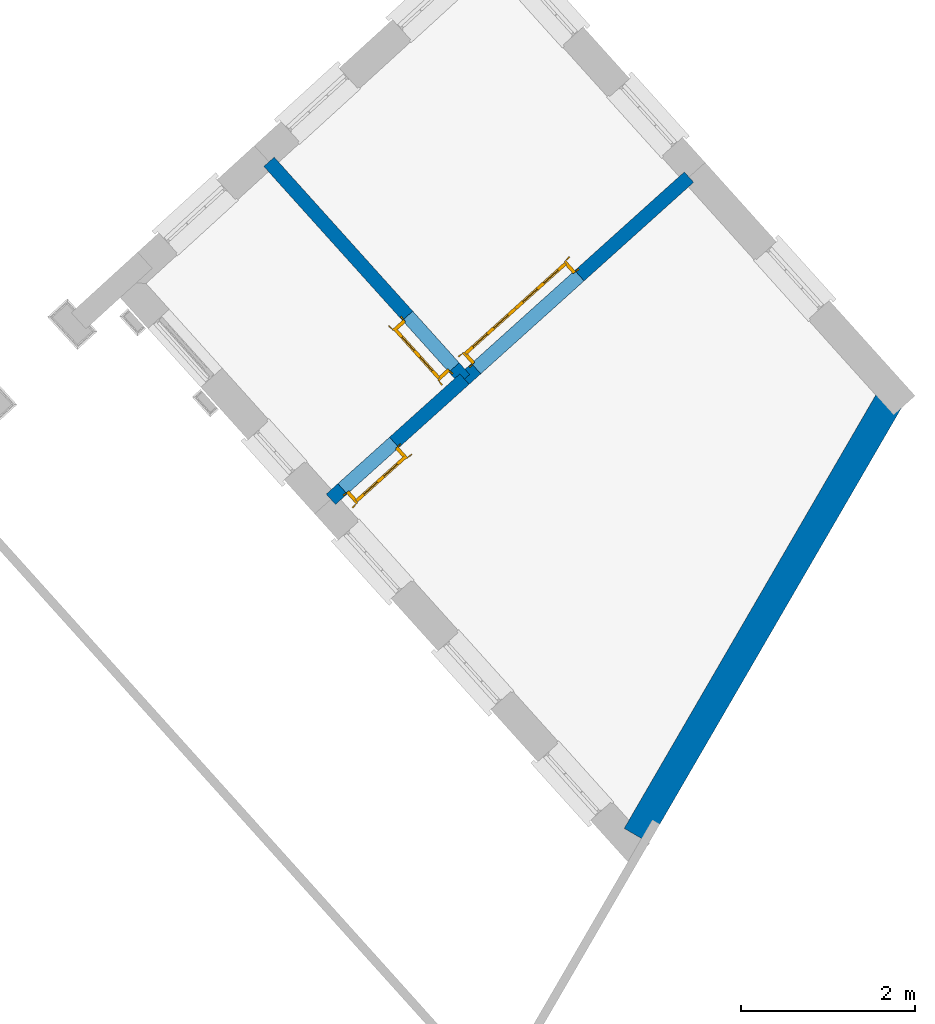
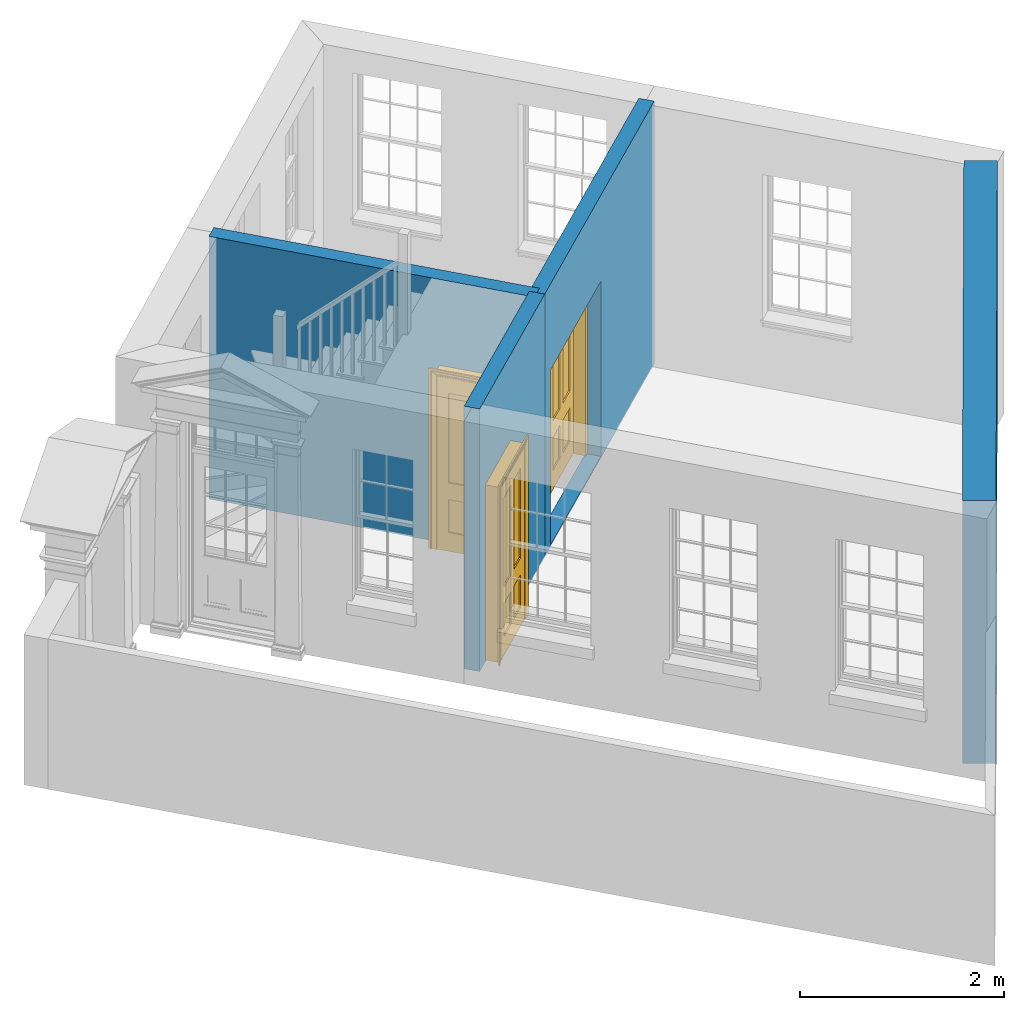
# One storey, part 5 of 7: 4 walls, 3 doors, 3 openings.
"""IFC4 building model written with IfcOpenShell, lengths in metres."""

from ifc_helpers import new_model, si_unit, frame, origin, origin_with_axes, place, context, subcontext, project, spatial, polyline, outline, extrude, faceted_brep, source, transform, mapped, material, layer, layer_set, layer_usage, type_object, type_shapes, element, fill, save


model = new_model("IFC4")

# Units and contexts
model_context = context("Model", 3, world=origin_with_axes())
body_context = subcontext(model_context, "Body", "Model", "MODEL_VIEW")
ifc_project = project(units=[si_unit("PLANEANGLEUNIT", "RADIAN"), si_unit("MASSUNIT", "GRAM", prefix="KILO"), si_unit("FORCEUNIT", "NEWTON", prefix="KILO"), si_unit("LENGTHUNIT", "METRE"), si_unit("AREAUNIT", "SQUARE_METRE"), si_unit("VOLUMEUNIT", "CUBIC_METRE")], contexts=[model_context, model_context])

# Sites, building, storey
site_1_placement = place(None, origin_with_axes())
site_1 = spatial("IfcSite", under=ifc_project, at=site_1_placement, Name="Tamar")
site_2_placement = place(site_1_placement, origin_with_axes())
site_2 = spatial("IfcSite", under=site_1, at=site_2_placement, Name="Site plot-7", CompositionType="ELEMENT")
building_placement = place(None, origin_with_axes())
building = spatial("IfcBuilding", under=site_2, at=building_placement, Name="Building plot-7", CompositionType="ELEMENT")
storey_placement = place(None, frame((0.0, 0.0, 26.0), z_axis=(0.0, 0.0, 1.0), x_axis=(1.0, 0.0, 0.0)))
storey = spatial("IfcBuildingStorey", under=building, at=storey_placement, Name="plot-7 0", CompositionType="ELEMENT", Elevation=26.0)

# Wall
ifc_material_1 = material(Name="Masonry")
ifc_layer_1 = layer(ifc_material_1, 0.33, ventilated=False)
ifc_layer_set_1 = layer_set([ifc_layer_1], Name="party_0.08_0.25")
ifc_layer_usage_1 = layer_usage(ifc_layer_set_1, "AXIS2", "POSITIVE", -0.25)
wall_type_1 = type_object("IfcWallType", Name="party_0.08_0.25", PredefinedType="SOLIDWALL", material=ifc_layer_set_1)
wall_1_placement = place(storey_placement, frame((245.157517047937, 280.815311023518, 0.0), z_axis=(0.0, 0.0, 1.0), x_axis=(0.502058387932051, 0.864833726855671, 0.0)))
element("IfcWall", 1, at=wall_1_placement, inside=storey, type_object=wall_type_1, material=ifc_layer_usage_1, Name="party", context=body_context, shape_type="SweptSolid", body=[
    extrude(outline(polyline([(7.51888801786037e-15, 0.0800000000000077), (-1.65002645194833e-15, -0.249999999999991), (5.82649093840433, -0.24999999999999), (5.82649093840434, 0.0800000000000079), (7.51888801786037e-15, 0.0800000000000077)])), origin_with_axes(), (0.0, 0.0, 1.0), 3.15),
])

# Wall, opening, door
ifc_material_2 = material(Name="Masonry")
ifc_layer_2 = layer(ifc_material_2, 0.16, ventilated=False)
ifc_layer_set_2 = layer_set([ifc_layer_2], Name="interior_0.08_0.08")
ifc_layer_usage_2 = layer_usage(ifc_layer_set_2, "AXIS2", "POSITIVE", -0.08)
wall_type_2 = type_object("IfcWallType", Name="interior_0.08_0.08", PredefinedType="SOLIDWALL", material=ifc_layer_set_2)
wall_2_placement = place(storey_placement, frame((243.250490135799, 286.027875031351, 0.0), z_axis=(0.0, 0.0, 1.0), x_axis=(-0.668853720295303, 0.743394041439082, 0.0)))
wall_2 = element("IfcWall", 2, at=wall_2_placement, inside=storey, type_object=wall_type_2, material=ifc_layer_usage_2, Name="interior", context=body_context, shape_type="SweptSolid", body=[
    extrude(outline(polyline([(-1.04756067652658e-14, 0.080000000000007), (1.0467640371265e-14, -0.080000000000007), (3.36467879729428, -0.0800000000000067), (3.36467879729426, 0.0800000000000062), (-1.04756067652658e-14, 0.080000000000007)])), origin_with_axes(), (0.0, 0.0, 1.0), 3.15),
])
opening_1_placement = place(wall_2_placement, frame((0.179999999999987, 0.0, 0.0199999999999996)))
opening_1 = element("IfcOpeningElement", 3, at=opening_1_placement, cuts=wall_2, Name="My Opening", ObjectType="Opening", context=body_context, shape_type="SweptSolid", body=[
    extrude(outline(polyline([(0.0, -0.0999999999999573), (0.800000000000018, -0.0999999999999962), (0.80000000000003, 1.09999999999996), (1.2267964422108e-14, 1.1), (0.0, -0.0999999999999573)])), origin_with_axes(), (0.0, 0.0, 1.0), 2.1),
])
door_type_1 = type_object("IfcDoorType", Name="door_inside", OperationType="SINGLE_SWING_LEFT", PredefinedType="NOTDEFINED")
shared_shape_1 = source(origin(), body_context, "Body", "Brep", [
    faceted_brep([(0.773, 0.33, 1.895), (0.66, 0.33, 1.895), (0.66, 0.33, 2.073), (0.773, 0.33, 2.073), (0.773, 0.33, 0.82), (0.66, 0.33, 0.82), (0.45, 0.33, 1.895), (0.45, 0.33, 2.073), (0.773, 0.33, 0.62), (0.66, 0.33, 0.62), (0.66, 0.315, 0.82), (0.66, 0.315, 1.895), (0.45, 0.315, 1.895), (0.35, 0.33, 1.895), (0.35, 0.33, 2.073), (0.773, 0.33, 0.225), (0.66, 0.33, 0.225), (0.45, 0.33, 0.62), (0.45, 0.33, 0.82), (0.45, 0.315, 0.82), (0.35, 0.33, 0.82), (0.14, 0.33, 2.073), (0.14, 0.33, 1.895), (0.773, 0.33, 0.0), (0.66, 0.33, 0.0), (0.66, 0.315, 0.225), (0.66, 0.315, 0.62), (0.45, 0.315, 0.62), (0.35, 0.33, 0.62), (0.35, 0.315, 0.82), (0.35, 0.315, 1.895), (0.14, 0.315, 1.895), (0.027, 0.33, 2.073), (0.027, 0.33, 1.895), (0.773, 0.292, 0.0), (0.66, 0.292, 0.0), (0.45, 0.33, 0.0), (0.45, 0.33, 0.225), (0.45, 0.315, 0.225), (0.35, 0.33, 0.225), (0.14, 0.33, 0.82), (0.14, 0.33, 0.62), (0.14, 0.315, 0.82), (0.027, 0.33, 0.82), (0.773, 0.292, 0.225), (0.66, 0.292, 0.225), (0.45, 0.292, 0.0), (0.35, 0.33, 0.0), (0.35, 0.315, 0.225), (0.35, 0.315, 0.62), (0.14, 0.315, 0.62), (0.027, 0.33, 0.62), (0.773, 0.292, 0.62), (0.66, 0.292, 0.62), (0.45, 0.292, 0.225), (0.35, 0.292, 0.0), (0.14, 0.33, 0.225), (0.14, 0.33, 0.0), (0.14, 0.315, 0.225), (0.027, 0.33, 0.225), (0.773, 0.292, 0.82), (0.66, 0.292, 0.82), (0.66, 0.307, 0.62), (0.66, 0.307, 0.225), (0.45, 0.307, 0.225), (0.35, 0.292, 0.225), (0.14, 0.292, 0.0), (0.027, 0.33, 0.0), (0.773, 0.292, 1.895), (0.66, 0.292, 1.895), (0.45, 0.292, 0.62), (0.45, 0.292, 0.82), (0.45, 0.307, 0.62), (0.35, 0.292, 0.62), (0.14, 0.292, 0.225), (0.027, 0.292, 0.0), (0.773, 0.292, 2.073), (0.66, 0.292, 2.073), (0.66, 0.307, 1.895), (0.66, 0.307, 0.82), (0.45, 0.307, 0.82), (0.35, 0.292, 0.82), (0.35, 0.307, 0.62), (0.35, 0.307, 0.225), (0.14, 0.307, 0.225), (0.027, 0.292, 0.225), (0.45, 0.292, 1.895), (0.45, 0.292, 2.073), (0.45, 0.307, 1.895), (0.35, 0.292, 1.895), (0.14, 0.292, 0.82), (0.14, 0.292, 0.62), (0.14, 0.307, 0.62), (0.027, 0.292, 0.62), (0.35, 0.292, 2.073), (0.35, 0.307, 1.895), (0.35, 0.307, 0.82), (0.14, 0.307, 0.82), (0.027, 0.292, 0.82), (0.14, 0.292, 2.073), (0.14, 0.292, 1.895), (0.14, 0.307, 1.895), (0.027, 0.292, 1.895), (0.027, 0.292, 2.073), (0.02, 0.335, 0.0), (0.005, 0.34, 0.0), (0.005, 0.34, 2.095), (0.02, 0.335, 2.08), (0.02, 0.33, 0.0), (0.0, 0.335, 0.0), (0.0, 0.335, 2.1), (0.795, 0.34, 2.095), (0.78, 0.335, 2.08), (0.02, 0.33, 2.08), (0.0, 0.33, 0.0), (-0.032, 0.345, 0.0), (-0.032, 0.345, 2.132), (0.8, 0.335, 2.1), (0.795, 0.34, 0.0), (0.78, 0.335, 0.0), (0.78, 0.33, 2.08), (0.04, 0.29, 0.0), (0.025, 0.29, 0.0), (0.025, 0.29, 2.075), (0.04, 0.29, 2.06), (-0.04, 0.34, 0.0), (-0.04, 0.34, 2.14), (0.832, 0.345, 2.132), (0.8, 0.335, 0.0), (0.78, 0.33, 0.0), (0.8, 0.33, 0.0), (0.86, 0.33, 0.0), (0.86, 0.33, 2.16), (0.8, 0.33, 2.1), (-0.06, 0.33, 2.16), (0.0, 0.33, 2.1), (-0.06, 0.33, 0.0), (-0.04, 0.345, 0.0), (-0.04, 0.345, 2.14), (0.84, 0.34, 2.14), (0.832, 0.345, 0.0), (0.84, 0.34, 0.0), (0.86, 0.345, 0.0), (0.86, 0.345, 2.16), (-0.06, 0.345, 2.16), (-0.06, 0.345, 0.0), (0.84, 0.345, 0.0), (0.84, 0.345, 2.14), (-0.025, 0.155, 0.0), (-0.025, 0.16, 0.0), (-0.025, 0.16, 2.125), (-0.025, 0.155, 2.125), (-0.017, 0.155, 0.0), (-0.017, 0.155, 2.117), (0.825, 0.16, 2.125), (0.825, 0.155, 2.125), (0.825, 0.155, 0.0), (0.845, 0.155, 0.0), (-0.045, 0.155, 2.145), (-0.045, 0.155, 0.0), (0.845, 0.155, 2.145), (0.015, 0.165, 0.0), (0.015, 0.165, 2.085), (0.817, 0.155, 2.117), (0.825, 0.16, 0.0), (0.845, 0.17, 0.0), (0.845, 0.17, 2.145), (-0.045, 0.17, 2.145), (-0.045, 0.17, 0.0), (0.02, 0.16, 0.0), (0.02, 0.16, 2.08), (0.785, 0.165, 2.085), (0.817, 0.155, 0.0), (0.8, 0.17, 0.0), (0.8, 0.17, 2.1), (0.0, 0.17, 2.1), (0.0, 0.17, 0.0), (0.035, 0.165, 0.0), (0.035, 0.165, 2.065), (0.78, 0.16, 2.08), (0.785, 0.165, 0.0), (0.775, 0.29, 2.075), (0.76, 0.29, 2.06), (0.035, 0.17, 2.065), (0.035, 0.17, 0.0), (0.765, 0.165, 2.065), (0.78, 0.16, 0.0), (0.765, 0.17, 0.0), (0.765, 0.17, 2.065), (0.765, 0.165, 0.0), (0.04, 0.17, 2.06), (0.04, 0.17, 0.0), (0.76, 0.17, 2.06), (0.76, 0.17, 0.0), (0.76, 0.29, 0.0), (0.775, 0.29, 0.0), (0.025, 0.33, 0.0), (0.025, 0.33, 2.075), (0.775, 0.33, 0.0), (0.775, 0.33, 2.075)], [[[0, 1, 2, 3]], [[1, 0, 4, 5]], [[1, 6, 7, 2]], [[8, 9, 5, 4]], [[1, 5, 10, 11]], [[6, 1, 11, 12]], [[6, 13, 14, 7]], [[15, 16, 9, 8]], [[9, 17, 18, 5]], [[5, 18, 19, 10]], [[10, 19, 12, 11]], [[18, 6, 12, 19]], [[18, 20, 13, 6]], [[21, 14, 13, 22]], [[23, 24, 16, 15]], [[9, 16, 25, 26]], [[17, 9, 26, 27]], [[17, 28, 20, 18]], [[13, 20, 29, 30]], [[22, 13, 30, 31]], [[32, 21, 22, 33]], [[34, 35, 24, 23]], [[24, 36, 37, 16]], [[16, 37, 38, 25]], [[25, 38, 27, 26]], [[37, 17, 27, 38]], [[37, 39, 28, 17]], [[40, 20, 28, 41]], [[20, 40, 42, 29]], [[31, 30, 29, 42]], [[40, 22, 31, 42]], [[33, 22, 40, 43]], [[35, 34, 44, 45]], [[35, 46, 36, 24]], [[36, 47, 39, 37]], [[28, 39, 48, 49]], [[41, 28, 49, 50]], [[43, 40, 41, 51]], [[45, 44, 52, 53]], [[46, 35, 45, 54]], [[46, 55, 47, 36]], [[56, 39, 47, 57]], [[39, 56, 58, 48]], [[50, 49, 48, 58]], [[56, 41, 50, 58]], [[51, 41, 56, 59]], [[53, 52, 60, 61]], [[45, 53, 62, 63]], [[54, 45, 63, 64]], [[55, 46, 54, 65]], [[55, 66, 57, 47]], [[59, 56, 57, 67]], [[61, 60, 68, 69]], [[70, 53, 61, 71]], [[53, 70, 72, 62]], [[72, 64, 63, 62]], [[70, 54, 64, 72]], [[65, 54, 70, 73]], [[65, 74, 66, 55]], [[67, 57, 66, 75]], [[69, 68, 76, 77]], [[61, 69, 78, 79]], [[71, 61, 79, 80]], [[73, 70, 71, 81]], [[65, 73, 82, 83]], [[74, 65, 83, 84]], [[74, 85, 75, 66]], [[86, 69, 77, 87]], [[69, 86, 88, 78]], [[88, 80, 79, 78]], [[86, 71, 80, 88]], [[81, 71, 86, 89]], [[73, 81, 90, 91]], [[73, 91, 92, 82]], [[83, 82, 92, 84]], [[91, 74, 84, 92]], [[91, 93, 85, 74]], [[89, 86, 87, 94]], [[81, 89, 95, 96]], [[90, 81, 96, 97]], [[90, 98, 93, 91]], [[94, 99, 100, 89]], [[89, 100, 101, 95]], [[101, 97, 96, 95]], [[100, 90, 97, 101]], [[100, 102, 98, 90]], [[99, 103, 102, 100]], [[32, 103, 99, 21]], [[102, 103, 32, 33]], [[98, 102, 33, 43]], [[21, 99, 94, 14]], [[94, 87, 7, 14]], [[7, 87, 77, 2]], [[76, 3, 2, 77]], [[43, 51, 93, 98]], [[51, 59, 85, 93]], [[67, 75, 85, 59]], [[34, 23, 15, 44]], [[44, 15, 8, 52]], [[52, 8, 4, 60]], [[0, 68, 60, 4]], [[0, 3, 76, 68]], [[104, 105, 106, 107]], [[104, 108, 109, 105]], [[105, 109, 110, 106]], [[107, 106, 111, 112]], [[107, 113, 108, 104]], [[114, 109, 108]], [[109, 115, 116, 110]], [[106, 110, 117, 111]], [[112, 111, 118, 119]], [[113, 107, 112, 120]], [[121, 122, 123, 124]], [[115, 109, 114, 125]], [[115, 125, 126, 116]], [[110, 116, 127, 117]], [[111, 117, 128, 118]], [[118, 128, 129, 119]], [[120, 112, 119, 129]], [[130, 129, 128]], [[130, 131, 132, 133]], [[133, 132, 134, 135]], [[135, 134, 136, 114]], [[136, 125, 114]], [[125, 137, 138, 126]], [[116, 126, 139, 127]], [[117, 127, 140, 128]], [[141, 130, 128, 140]], [[131, 130, 141]], [[131, 142, 143, 132]], [[132, 143, 144, 134]], [[134, 144, 145, 136]], [[137, 125, 136, 145]], [[143, 142, 146]], [[143, 146, 147]], [[137, 145, 144]], [[143, 147, 138]], [[138, 137, 144]], [[143, 138, 144]], [[126, 138, 147, 139]], [[127, 139, 141, 140]], [[142, 131, 141, 146]], [[139, 147, 146, 141]], [[148, 149, 150, 151]], [[149, 152, 153, 150]], [[151, 150, 154, 155]], [[155, 156, 157]], [[158, 159, 148]], [[158, 148, 151]], [[155, 157, 160]], [[158, 151, 155]], [[155, 160, 158]], [[152, 161, 162, 153]], [[150, 153, 163, 154]], [[155, 154, 164, 156]], [[156, 164, 165, 157]], [[157, 165, 166, 160]], [[160, 166, 167, 158]], [[158, 167, 168, 159]], [[161, 169, 170, 162]], [[153, 162, 171, 163]], [[154, 163, 172, 164]], [[165, 164, 173]], [[165, 173, 174, 166]], [[166, 174, 175, 167]], [[167, 175, 176, 168]], [[169, 177, 178, 170]], [[162, 170, 179, 171]], [[163, 171, 180, 172]], [[172, 180, 173, 164]], [[124, 123, 181, 182]], [[183, 178, 177, 184]], [[170, 178, 185, 179]], [[171, 179, 186, 180]], [[187, 173, 180]], [[185, 188, 187, 189]], [[188, 185, 178, 183]], [[179, 185, 189, 186]], [[189, 187, 180, 186]], [[190, 183, 184, 191]], [[192, 188, 183, 190]], [[191, 184, 122, 121]], [[124, 190, 191, 121]], [[193, 187, 188, 192]], [[182, 192, 190, 124]], [[184, 176, 122]], [[194, 195, 187, 193]], [[192, 182, 194, 193]], [[161, 176, 184]], [[114, 108, 122, 176]], [[173, 187, 195]], [[152, 149, 176, 161]], [[169, 161, 184, 177]], [[196, 122, 108]], [[176, 175, 135, 114]], [[173, 195, 129, 130]], [[176, 149, 168]], [[123, 122, 196, 197]], [[196, 108, 113, 197]], [[175, 174, 133, 135]], [[198, 129, 195]], [[133, 174, 173, 130]], [[159, 168, 149, 148]], [[181, 123, 197, 199]], [[197, 113, 120, 199]], [[199, 120, 129, 198]], [[195, 181, 199, 198]], [[195, 194, 182, 181]]]),
])
type_shapes(door_type_1, [shared_shape_1])
door_1_placement = place(storey_placement, frame((243.20443587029, 286.22857133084, 0.0199999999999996), z_axis=(0.0, 0.0, 1.0), x_axis=(-0.535082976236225, 0.594715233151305, 0.0)))
door_1 = element("IfcDoor", 4, at=door_1_placement, inside=storey, type_object=door_type_1, Name="kitchen inside door", OverallHeight=2.1, OverallWidth=0.8, context=body_context, shape_type="MappedRepresentation", body=[
    mapped(shared_shape_1, transform((0.0, 0.0, 0.0), scale=1.0)),
])
fill(opening_1, door_1)

wall_3_placement = place(storey_placement, frame((243.250490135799, 286.027875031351, 0.0), z_axis=(0.0, 0.0, 1.0), x_axis=(-0.743394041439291, -0.668853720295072, 0.0)))
wall_3 = element("IfcWall", 5, at=wall_3_placement, inside=storey, type_object=wall_type_2, material=ifc_layer_usage_2, Name="interior", context=body_context, shape_type="SweptSolid", body=[
    extrude(outline(polyline([(4.81699484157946e-15, 0.0800000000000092), (-4.79126487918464e-15, -0.0800000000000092), (2.0687703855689, -0.0800000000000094), (2.06877038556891, 0.0800000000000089), (4.81699484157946e-15, 0.0800000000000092)])), origin_with_axes(), (0.0, 0.0, 1.0), 3.15),
])
opening_2_placement = place(wall_3_placement, frame((1.08877038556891, 0.0, 0.0199999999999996)))
opening_2 = element("IfcOpeningElement", 6, at=opening_2_placement, cuts=wall_3, Name="My Opening", ObjectType="Opening", context=body_context, shape_type="SweptSolid", body=[
    extrude(outline(polyline([(0.0, -0.0999999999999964), (0.799999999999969, -0.10000000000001), (0.799999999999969, 1.09999999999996), (8.88178419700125e-16, 1.09999999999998), (0.0, -0.0999999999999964)])), origin_with_axes(), (0.0, 0.0, 1.0), 2.1),
])
door_2_placement = place(storey_placement, frame((242.374219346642, 285.37398631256, 0.0199999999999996), z_axis=(0.0, 0.0, 1.0), x_axis=(-0.594715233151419, -0.535082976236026, 0.0)))
door_2 = element("IfcDoor", 7, at=door_2_placement, inside=storey, type_object=door_type_1, Name="living inside door", OverallHeight=2.1, OverallWidth=0.8, context=body_context, shape_type="MappedRepresentation", body=[
    mapped(shared_shape_1, transform((0.0, 0.0, 0.0), scale=1.0)),
])
fill(opening_2, door_2)

wall_4_placement = place(storey_placement, frame((243.250490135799, 286.027875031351, 0.0), z_axis=(0.0, 0.0, 1.0), x_axis=(0.743394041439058, 0.66885372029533, 0.0)))
wall_4 = element("IfcWall", 8, at=wall_4_placement, inside=storey, type_object=wall_type_2, material=ifc_layer_usage_2, Name="interior", context=body_context, shape_type="SweptSolid", body=[
    extrude(outline(polyline([(-2.65338725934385e-14, 0.0799999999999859), (2.65791969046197e-14, -0.0799999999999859), (3.4761522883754, -0.079999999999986), (3.47615228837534, 0.0799999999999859), (-2.65338725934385e-14, 0.0799999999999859)])), origin_with_axes(), (0.0, 0.0, 1.0), 3.15),
])
opening_3_placement = place(wall_4_placement, frame((0.179999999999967, 0.0, 0.0199999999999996)))
opening_3 = element("IfcOpeningElement", 9, at=opening_3_placement, cuts=wall_4, Name="My Opening", ObjectType="Opening", context=body_context, shape_type="SweptSolid", body=[
    extrude(outline(polyline([(0.0, -0.100000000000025), (1.60000000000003, -0.100000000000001), (1.60000000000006, 1.10000000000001), (3.23630011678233e-14, 1.09999999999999), (0.0, -0.100000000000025)])), origin_with_axes(), (0.0, 0.0, 1.0), 2.1),
])
door_type_2 = type_object("IfcDoorType", Name="door_inside_double", OperationType="SINGLE_SWING_LEFT", PredefinedType="NOTDEFINED")
shared_shape_2 = source(origin(), body_context, "Body", "Brep", [
    faceted_brep([(0.14, 0.307, 1.895), (0.14, 0.307, 0.82), (0.363, 0.307, 0.82), (0.363, 0.307, 1.895), (0.14, 0.292, 1.895), (0.14, 0.292, 0.82), (0.363, 0.292, 0.82), (0.363, 0.292, 1.895), (0.027, 0.292, 1.895), (0.027, 0.292, 0.82), (0.363, 0.292, 0.62), (0.14, 0.292, 0.62), (0.463, 0.292, 0.82), (0.463, 0.292, 1.895), (0.363, 0.292, 2.073), (0.14, 0.292, 2.073), (0.027, 0.292, 2.073), (0.027, 0.33, 1.895), (0.027, 0.33, 0.82), (0.027, 0.292, 0.62), (0.463, 0.292, 0.62), (0.14, 0.307, 0.62), (0.363, 0.307, 0.62), (0.463, 0.307, 0.82), (0.463, 0.307, 1.895), (0.463, 0.292, 2.073), (0.14, 0.33, 2.073), (0.363, 0.33, 2.073), (0.027, 0.33, 2.073), (0.14, 0.33, 1.895), (0.14, 0.33, 0.82), (0.027, 0.33, 0.62), (0.027, 0.292, 0.225), (0.14, 0.292, 0.225), (0.363, 0.292, 0.225), (0.463, 0.292, 0.225), (0.686, 0.292, 0.62), (0.686, 0.292, 0.82), (0.14, 0.307, 0.225), (0.363, 0.307, 0.225), (0.686, 0.307, 0.82), (0.686, 0.307, 1.895), (0.686, 0.292, 1.895), (0.686, 0.292, 2.073), (0.463, 0.33, 2.073), (0.363, 0.33, 1.895), (0.14, 0.315, 1.895), (0.14, 0.315, 0.82), (0.14, 0.33, 0.62), (0.027, 0.33, 0.225), (0.027, 0.292, 0.0), (0.14, 0.292, 0.0), (0.363, 0.292, 0.0), (0.463, 0.292, 0.0), (0.463, 0.307, 0.225), (0.463, 0.307, 0.62), (0.686, 0.307, 0.62), (0.799, 0.292, 0.62), (0.799, 0.292, 0.82), (0.799, 0.292, 1.895), (0.799, 0.292, 2.073), (0.686, 0.33, 2.073), (0.463, 0.33, 1.895), (0.363, 0.315, 1.895), (0.363, 0.315, 0.82), (0.363, 0.33, 0.82), (0.363, 0.33, 0.62), (0.14, 0.33, 0.225), (0.027, 0.33, 0.0), (0.14, 0.33, 0.0), (0.363, 0.33, 0.0), (0.463, 0.33, 0.0), (0.686, 0.292, 0.0), (0.686, 0.292, 0.225), (0.686, 0.307, 0.225), (0.799, 0.292, 0.225), (0.799, 0.33, 0.62), (0.799, 0.33, 0.82), (0.799, 0.33, 1.895), (0.799, 0.33, 2.073), (0.686, 0.33, 1.895), (0.463, 0.33, 0.82), (0.463, 0.33, 0.62), (0.363, 0.315, 0.62), (0.14, 0.315, 0.62), (0.14, 0.315, 0.225), (0.363, 0.33, 0.225), (0.463, 0.33, 0.225), (0.686, 0.33, 0.0), (0.799, 0.292, 0.0), (0.799, 0.33, 0.225), (0.686, 0.33, 0.62), (0.686, 0.33, 0.82), (0.686, 0.315, 1.895), (0.463, 0.315, 1.895), (0.463, 0.315, 0.82), (0.363, 0.315, 0.225), (0.686, 0.33, 0.225), (0.799, 0.33, 0.0), (0.686, 0.315, 0.82), (0.463, 0.315, 0.62), (0.463, 0.315, 0.225), (0.686, 0.315, 0.62), (0.686, 0.315, 0.225), (1.46, 0.33, 1.895), (1.237, 0.33, 1.895), (1.237, 0.33, 2.073), (1.46, 0.33, 2.073), (1.46, 0.315, 1.895), (1.237, 0.315, 1.895), (1.137, 0.33, 1.895), (1.137, 0.33, 2.073), (1.237, 0.292, 2.073), (1.46, 0.292, 2.073), (1.573, 0.33, 1.895), (1.573, 0.33, 2.073), (1.46, 0.33, 0.82), (1.46, 0.315, 0.82), (1.237, 0.315, 0.82), (1.237, 0.33, 0.82), (1.137, 0.33, 0.82), (0.914, 0.33, 2.073), (0.914, 0.33, 1.895), (1.137, 0.292, 2.073), (1.237, 0.292, 1.895), (1.46, 0.292, 1.895), (1.573, 0.292, 2.073), (1.573, 0.33, 0.82), (1.573, 0.292, 1.895), (1.237, 0.33, 0.62), (1.137, 0.33, 0.62), (1.137, 0.315, 0.82), (1.137, 0.315, 1.895), (0.914, 0.292, 2.073), (0.914, 0.315, 1.895), (0.801, 0.33, 2.073), (0.801, 0.33, 1.895), (1.137, 0.292, 1.895), (1.237, 0.307, 1.895), (1.46, 0.307, 1.895), (1.573, 0.292, 0.82), (1.573, 0.33, 0.62), (1.46, 0.33, 0.62), (1.237, 0.33, 0.225), (1.137, 0.33, 0.225), (0.914, 0.33, 0.82), (0.914, 0.33, 0.62), (0.914, 0.315, 0.82), (0.801, 0.292, 2.073), (0.914, 0.292, 1.895), (0.801, 0.33, 0.82), (0.801, 0.292, 1.895), (1.137, 0.292, 0.82), (1.237, 0.292, 0.82), (1.237, 0.307, 0.82), (1.46, 0.307, 0.82), (1.46, 0.292, 0.82), (1.573, 0.292, 0.62), (1.573, 0.33, 0.225), (1.46, 0.33, 0.225), (1.46, 0.315, 0.62), (1.237, 0.315, 0.62), (1.237, 0.33, 0.0), (1.137, 0.33, 0.0), (1.137, 0.315, 0.225), (1.137, 0.315, 0.62), (1.237, 0.315, 0.225), (0.914, 0.315, 0.62), (0.801, 0.33, 0.62), (0.914, 0.307, 1.895), (1.137, 0.307, 1.895), (0.801, 0.292, 0.82), (1.137, 0.292, 0.62), (1.237, 0.292, 0.62), (1.137, 0.307, 0.82), (1.46, 0.292, 0.62), (1.573, 0.292, 0.225), (1.573, 0.33, 0.0), (1.46, 0.33, 0.0), (1.46, 0.315, 0.225), (1.237, 0.292, 0.0), (1.137, 0.292, 0.0), (0.914, 0.33, 0.225), (0.914, 0.33, 0.0), (0.914, 0.315, 0.225), (0.801, 0.33, 0.225), (0.801, 0.292, 0.62), (0.914, 0.292, 0.82), (0.914, 0.307, 0.82), (1.137, 0.292, 0.225), (1.237, 0.292, 0.225), (0.914, 0.292, 0.62), (1.46, 0.292, 0.225), (1.573, 0.292, 0.0), (1.46, 0.292, 0.0), (0.914, 0.292, 0.0), (0.801, 0.33, 0.0), (0.801, 0.292, 0.225), (1.237, 0.307, 0.225), (1.237, 0.307, 0.62), (1.137, 0.307, 0.62), (1.137, 0.307, 0.225), (1.46, 0.307, 0.62), (0.914, 0.307, 0.62), (1.46, 0.307, 0.225), (0.914, 0.292, 0.225), (0.801, 0.292, 0.0), (0.914, 0.307, 0.225), (0.02, 0.335, 0.0), (0.005, 0.34, 0.0), (0.005, 0.34, 2.095), (0.02, 0.335, 2.08), (0.02, 0.33, 0.0), (0.0, 0.335, 0.0), (0.0, 0.335, 2.1), (1.595, 0.34, 2.095), (1.58, 0.335, 2.08), (0.02, 0.33, 2.08), (0.0, 0.33, 0.0), (-0.032, 0.345, 0.0), (-0.032, 0.345, 2.132), (1.6, 0.335, 2.1), (1.595, 0.34, 0.0), (1.58, 0.335, 0.0), (1.58, 0.33, 2.08), (0.025, 0.33, 0.0), (0.025, 0.33, 2.075), (-0.04, 0.34, 0.0), (0.025, 0.29, 0.0), (0.0, 0.17, 0.0), (-0.04, 0.34, 2.14), (1.632, 0.345, 2.132), (1.6, 0.335, 0.0), (1.58, 0.33, 0.0), (1.575, 0.33, 2.075), (0.025, 0.29, 2.075), (-0.06, 0.33, 0.0), (0.035, 0.17, 0.0), (0.0, 0.17, 2.1), (0.0, 0.33, 2.1), (-0.04, 0.345, 0.0), (-0.04, 0.345, 2.14), (1.64, 0.34, 2.14), (1.632, 0.345, 0.0), (1.6, 0.33, 0.0), (1.575, 0.33, 0.0), (1.575, 0.29, 2.075), (0.04, 0.29, 0.0), (0.04, 0.29, 2.06), (-0.06, 0.345, 0.0), (-0.06, 0.33, 2.16), (0.015, 0.165, 0.0), (0.04, 0.17, 0.0), (-0.045, 0.17, 2.145), (-0.045, 0.17, 0.0), (1.6, 0.17, 2.1), (1.6, 0.33, 2.1), (-0.06, 0.345, 2.16), (1.64, 0.345, 2.14), (1.64, 0.34, 0.0), (1.6, 0.17, 0.0), (1.575, 0.29, 0.0), (1.56, 0.29, 2.06), (0.04, 0.17, 2.06), (1.66, 0.33, 2.16), (-0.017, 0.155, 0.0), (-0.025, 0.16, 0.0), (0.02, 0.16, 0.0), (0.035, 0.165, 0.0), (0.035, 0.17, 2.065), (1.645, 0.17, 2.145), (-0.045, 0.155, 2.145), (-0.045, 0.155, 0.0), (1.66, 0.345, 2.16), (1.64, 0.345, 0.0), (1.66, 0.33, 0.0), (1.565, 0.17, 0.0), (1.56, 0.29, 0.0), (1.56, 0.17, 2.06), (-0.017, 0.155, 2.117), (-0.025, 0.16, 2.125), (0.015, 0.165, 2.085), (0.02, 0.16, 2.08), (0.035, 0.165, 2.065), (1.565, 0.17, 2.065), (1.645, 0.17, 0.0), (1.645, 0.155, 2.145), (-0.025, 0.155, 0.0), (1.66, 0.345, 0.0), (1.585, 0.165, 0.0), (1.56, 0.17, 0.0), (1.617, 0.155, 2.117), (1.625, 0.16, 2.125), (-0.025, 0.155, 2.125), (1.585, 0.165, 2.085), (1.58, 0.16, 2.08), (1.565, 0.165, 2.065), (1.625, 0.16, 0.0), (1.645, 0.155, 0.0), (1.625, 0.155, 2.125), (1.617, 0.155, 0.0), (1.565, 0.165, 0.0), (1.58, 0.16, 0.0), (1.625, 0.155, 0.0)], [[[0, 1, 2, 3]], [[1, 0, 4, 5]], [[2, 1, 5, 6]], [[6, 7, 3, 2]], [[7, 4, 0, 3]], [[4, 8, 9, 5]], [[10, 6, 5, 11]], [[6, 12, 13, 7]], [[14, 15, 4, 7]], [[15, 16, 8, 4]], [[9, 8, 17, 18]], [[5, 9, 19, 11]], [[10, 20, 12, 6]], [[10, 11, 21, 22]], [[13, 12, 23, 24]], [[7, 13, 25, 14]], [[26, 15, 14, 27]], [[28, 16, 15, 26]], [[8, 16, 28, 17]], [[17, 29, 30, 18]], [[18, 31, 19, 9]], [[11, 19, 32, 33]], [[34, 35, 20, 10]], [[20, 36, 37, 12]], [[11, 33, 38, 21]], [[39, 22, 21, 38]], [[34, 10, 22, 39]], [[12, 37, 40, 23]], [[24, 23, 40, 41]], [[42, 13, 24, 41]], [[13, 42, 43, 25]], [[14, 25, 44, 27]], [[26, 27, 45, 29]], [[28, 26, 29, 17]], [[30, 29, 46, 47]], [[18, 30, 48, 31]], [[31, 49, 32, 19]], [[33, 32, 50, 51]], [[52, 53, 35, 34]], [[20, 35, 54, 55]], [[36, 20, 55, 56]], [[36, 57, 58, 37]], [[33, 34, 39, 38]], [[37, 42, 41, 40]], [[42, 59, 60, 43]], [[44, 25, 43, 61]], [[62, 45, 27, 44]], [[29, 45, 63, 46]], [[46, 63, 64, 47]], [[65, 30, 47, 64]], [[30, 65, 66, 48]], [[31, 48, 67, 49]], [[68, 50, 32, 49]], [[68, 69, 51, 50]], [[34, 33, 51, 52]], [[53, 52, 70, 71]], [[53, 72, 73, 35]], [[35, 73, 74, 54]], [[55, 54, 74, 56]], [[73, 36, 56, 74]], [[73, 75, 57, 36]], [[57, 76, 77, 58]], [[37, 58, 59, 42]], [[78, 79, 60, 59]], [[60, 79, 61, 43]], [[80, 62, 44, 61]], [[81, 65, 45, 62]], [[45, 65, 64, 63]], [[82, 66, 65, 81]], [[48, 66, 83, 84]], [[67, 48, 84, 85]], [[49, 67, 69, 68]], [[52, 51, 69, 70]], [[71, 70, 86, 87]], [[72, 53, 71, 88]], [[72, 89, 75, 73]], [[75, 90, 76, 57]], [[76, 91, 92, 77]], [[78, 59, 58, 77]], [[78, 80, 61, 79]], [[62, 80, 93, 94]], [[81, 62, 94, 95]], [[87, 86, 66, 82]], [[91, 82, 81, 92]], [[66, 86, 96, 83]], [[84, 83, 96, 85]], [[86, 67, 85, 96]], [[67, 86, 70, 69]], [[88, 71, 87, 97]], [[89, 72, 88, 98]], [[89, 98, 90, 75]], [[90, 97, 91, 76]], [[80, 78, 77, 92]], [[80, 92, 99, 93]], [[99, 95, 94, 93]], [[92, 81, 95, 99]], [[87, 82, 100, 101]], [[82, 91, 102, 100]], [[97, 87, 101, 103]], [[98, 88, 97, 90]], [[91, 97, 103, 102]], [[103, 101, 100, 102]], [[104, 105, 106, 107]], [[105, 104, 108, 109]], [[105, 110, 111, 106]], [[106, 112, 113, 107]], [[114, 104, 107, 115]], [[104, 116, 117, 108]], [[117, 118, 109, 108]], [[119, 105, 109, 118]], [[119, 120, 110, 105]], [[121, 111, 110, 122]], [[123, 112, 106, 111]], [[124, 125, 113, 112]], [[126, 115, 107, 113]], [[104, 114, 127, 116]], [[114, 115, 126, 128]], [[116, 119, 118, 117]], [[129, 130, 120, 119]], [[110, 120, 131, 132]], [[121, 133, 123, 111]], [[122, 110, 132, 134]], [[135, 121, 122, 136]], [[137, 124, 112, 123]], [[125, 124, 138, 139]], [[125, 128, 126, 113]], [[114, 128, 140, 127]], [[141, 142, 116, 127]], [[142, 129, 119, 116]], [[143, 144, 130, 129]], [[145, 120, 130, 146]], [[120, 145, 147, 131]], [[134, 132, 131, 147]], [[135, 148, 133, 121]], [[123, 133, 149, 137]], [[145, 122, 134, 147]], [[136, 122, 145, 150]], [[151, 148, 135, 136]], [[152, 153, 124, 137]], [[124, 153, 154, 138]], [[138, 154, 155, 139]], [[156, 125, 139, 155]], [[156, 140, 128, 125]], [[157, 141, 127, 140]], [[158, 159, 142, 141]], [[129, 142, 160, 161]], [[162, 163, 144, 143]], [[130, 144, 164, 165]], [[143, 129, 161, 166]], [[146, 130, 165, 167]], [[150, 145, 146, 168]], [[133, 148, 151, 149]], [[137, 149, 169, 170]], [[171, 151, 136, 150]], [[172, 173, 153, 152]], [[152, 137, 170, 174]], [[153, 156, 155, 154]], [[175, 157, 140, 156]], [[176, 158, 141, 157]], [[177, 178, 159, 158]], [[142, 159, 179, 160]], [[179, 166, 161, 160]], [[180, 181, 163, 162]], [[182, 144, 163, 183]], [[178, 162, 143, 159]], [[144, 182, 184, 164]], [[167, 165, 164, 184]], [[159, 143, 166, 179]], [[182, 146, 167, 184]], [[168, 146, 182, 185]], [[150, 168, 186, 171]], [[149, 151, 171, 187]], [[149, 187, 188, 169]], [[169, 188, 174, 170]], [[189, 190, 173, 172]], [[173, 175, 156, 153]], [[172, 152, 187, 191]], [[187, 152, 174, 188]], [[192, 176, 157, 175]], [[193, 177, 158, 176]], [[193, 194, 178, 177]], [[181, 180, 190, 189]], [[181, 195, 183, 163]], [[194, 180, 162, 178]], [[185, 182, 183, 196]], [[168, 185, 197, 186]], [[187, 171, 186, 191]], [[173, 190, 198, 199]], [[189, 172, 200, 201]], [[175, 173, 199, 202]], [[172, 191, 203, 200]], [[194, 193, 176, 192]], [[192, 175, 202, 204]], [[180, 194, 192, 190]], [[189, 205, 195, 181]], [[196, 183, 195, 206]], [[196, 206, 197, 185]], [[191, 186, 197, 205]], [[190, 192, 204, 198]], [[199, 198, 204, 202]], [[201, 200, 203, 207]], [[205, 189, 201, 207]], [[191, 205, 207, 203]], [[205, 197, 206, 195]], [[208, 209, 210, 211]], [[208, 212, 213, 209]], [[209, 213, 214, 210]], [[211, 210, 215, 216]], [[211, 217, 212, 208]], [[218, 213, 212]], [[213, 219, 220, 214]], [[210, 214, 221, 215]], [[216, 215, 222, 223]], [[217, 211, 216, 224]], [[225, 212, 217, 226]], [[219, 213, 218, 227]], [[218, 212, 228, 229]], [[219, 227, 230, 220]], [[214, 220, 231, 221]], [[215, 221, 232, 222]], [[222, 232, 233, 223]], [[224, 216, 223, 233]], [[226, 217, 224, 234]], [[225, 228, 212]], [[235, 228, 225, 226]], [[236, 227, 218]], [[237, 229, 228]], [[229, 238, 239, 218]], [[227, 240, 241, 230]], [[220, 230, 242, 231]], [[221, 231, 243, 232]], [[244, 233, 232]], [[234, 224, 233, 245]], [[246, 235, 226, 234]], [[247, 228, 235, 248]], [[240, 227, 236, 249]], [[239, 250, 236, 218]], [[251, 229, 237]], [[252, 237, 228, 247]], [[253, 238, 229, 254]], [[238, 255, 256, 239]], [[241, 240, 257]], [[230, 241, 258, 242]], [[231, 242, 259, 243]], [[259, 244, 232, 243]], [[260, 261, 233, 244]], [[245, 233, 261]], [[261, 246, 234, 245]], [[248, 235, 246, 262]], [[248, 263, 252, 247]], [[250, 257, 249, 236]], [[240, 249, 257]], [[256, 264, 250, 239]], [[265, 266, 229, 251]], [[267, 251, 237, 268]], [[263, 269, 237, 252]], [[270, 255, 238, 253]], [[229, 266, 254]], [[271, 253, 254, 272]], [[256, 255, 260, 244]], [[273, 241, 257]], [[273, 258, 241]], [[242, 258, 274, 259]], [[275, 244, 259]], [[260, 276, 261]], [[261, 277, 262, 246]], [[262, 278, 263, 248]], [[264, 273, 257, 250]], [[244, 275, 264, 256]], [[266, 265, 279, 280]], [[265, 251, 281, 279]], [[251, 267, 282, 281]], [[269, 283, 268, 237]], [[267, 268, 283, 282]], [[278, 284, 269, 263]], [[285, 260, 255, 270]], [[286, 270, 253, 271]], [[272, 254, 266, 287]], [[271, 272, 287]], [[273, 274, 258]], [[288, 275, 259, 274]], [[276, 260, 289]], [[277, 261, 276, 290]], [[278, 262, 277, 290]], [[275, 288, 273, 264]], [[280, 279, 291, 292]], [[287, 266, 280, 293]], [[279, 281, 294, 291]], [[281, 282, 295, 294]], [[284, 296, 283, 269]], [[282, 283, 296, 295]], [[290, 276, 284, 278]], [[285, 297, 260]], [[298, 285, 270, 286]], [[299, 286, 271]], [[271, 287, 293]], [[273, 288, 274]], [[300, 289, 260, 297]], [[301, 276, 289, 302]], [[292, 291, 300, 297]], [[293, 280, 292, 299]], [[291, 294, 289, 300]], [[294, 295, 302, 289]], [[296, 284, 276, 301]], [[295, 296, 301, 302]], [[303, 297, 285, 298]], [[299, 298, 286]], [[271, 293, 299]], [[299, 292, 297, 303]], [[299, 303, 298]]]),
])
type_shapes(door_type_2, [shared_shape_2])
door_3_placement = place(storey_placement, frame((243.451186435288, 286.07392929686, 0.0199999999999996), z_axis=(0.0, 0.0, 1.0), x_axis=(1.1894304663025, 1.07016595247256, 0.0)))
door_3 = element("IfcDoor", 10, at=door_3_placement, inside=storey, type_object=door_type_2, Name="kitchen living inside door", OverallHeight=2.1, OverallWidth=1.6, context=body_context, shape_type="MappedRepresentation", body=[
    mapped(shared_shape_2, transform((0.0, 0.0, 0.0), scale=1.0)),
])
fill(opening_3, door_3)

save(model, "model.ifc")
